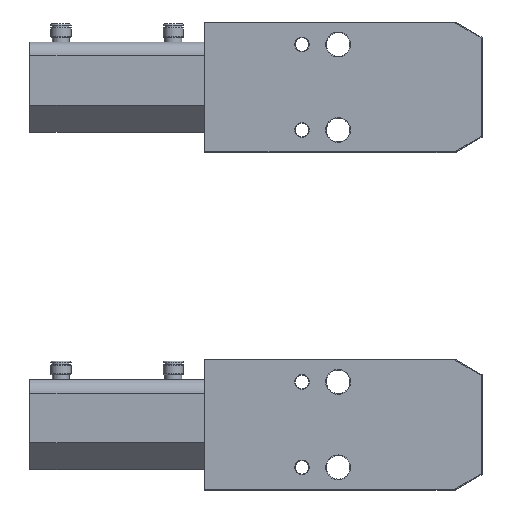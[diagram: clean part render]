
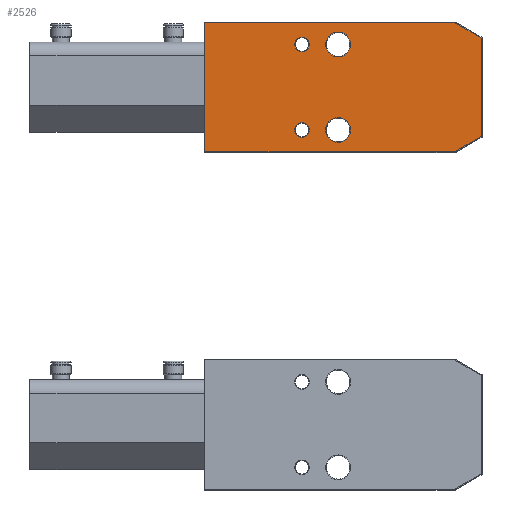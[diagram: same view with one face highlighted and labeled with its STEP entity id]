
A CAD part, top view. The second image highlights one B-rep face of the part: STEP entity #2526.
In plain terms, the highlighted planar face has unit normal (0, 0, 1).
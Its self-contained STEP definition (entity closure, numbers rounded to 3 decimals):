
#2526=ADVANCED_FACE('',(#5148,#5149,#5150,#5151,#5152),#5153,.T.);
#5148=FACE_OUTER_BOUND('',#8176,.T.);
#5149=FACE_BOUND('',#8177,.T.);
#5150=FACE_BOUND('',#8178,.T.);
#5151=FACE_BOUND('',#8179,.T.);
#5152=FACE_BOUND('',#8180,.T.);
#5153=PLANE('',#8181);
#8176=EDGE_LOOP('',(#15786,#15787,#15788,#15789,#15790,#15791));
#8177=EDGE_LOOP('',(#15792));
#8178=EDGE_LOOP('',(#15793));
#8179=EDGE_LOOP('',(#15794));
#8180=EDGE_LOOP('',(#15795));
#8181=AXIS2_PLACEMENT_3D('',#15796,#15797,#15798);
#15786=ORIENTED_EDGE('',*,*,#18616,.T.);
#15787=ORIENTED_EDGE('',*,*,#18474,.T.);
#15788=ORIENTED_EDGE('',*,*,#17780,.T.);
#15789=ORIENTED_EDGE('',*,*,#18741,.T.);
#15790=ORIENTED_EDGE('',*,*,#17761,.T.);
#15791=ORIENTED_EDGE('',*,*,#18073,.T.);
#15792=ORIENTED_EDGE('',*,*,#18054,.T.);
#15793=ORIENTED_EDGE('',*,*,#17785,.T.);
#15794=ORIENTED_EDGE('',*,*,#18614,.T.);
#15795=ORIENTED_EDGE('',*,*,#17770,.T.);
#15796=CARTESIAN_POINT('',(1509.5,139.0,47.));
#15797=DIRECTION('',(0.,0.,1.0));
#15798=DIRECTION('',(0.0,-1.0,0.));
#17761=EDGE_CURVE('',#21587,#21588,#21589,.T.);
#17770=EDGE_CURVE('',#21602,#21602,#21603,.T.);
#17780=EDGE_CURVE('',#21617,#21618,#21619,.T.);
#17785=EDGE_CURVE('',#21626,#21626,#21627,.T.);
#18054=EDGE_CURVE('',#22055,#22055,#22056,.T.);
#18073=EDGE_CURVE('',#21588,#22084,#22085,.T.);
#18474=EDGE_CURVE('',#22651,#21617,#22652,.T.);
#18614=EDGE_CURVE('',#22821,#22821,#22822,.T.);
#18616=EDGE_CURVE('',#22084,#22651,#22824,.T.);
#18741=EDGE_CURVE('',#21618,#21587,#22960,.T.);
#21587=VERTEX_POINT('',#27580);
#21588=VERTEX_POINT('',#27581);
#21589=LINE('',#27582,#27583);
#21602=VERTEX_POINT('',#27604);
#21603=CIRCLE('',#27605,5.5);
#21617=VERTEX_POINT('',#27629);
#21618=VERTEX_POINT('',#27630);
#21619=LINE('',#27631,#27632);
#21626=VERTEX_POINT('',#27642);
#21627=CIRCLE('',#27643,3.25);
#22055=VERTEX_POINT('',#28330);
#22056=CIRCLE('',#28331,3.25);
#22084=VERTEX_POINT('',#28376);
#22085=LINE('',#28377,#28378);
#22651=VERTEX_POINT('',#29373);
#22652=LINE('',#29374,#29375);
#22821=VERTEX_POINT('',#29667);
#22822=CIRCLE('',#29668,5.5);
#22824=LINE('',#29670,#29671);
#22960=LINE('',#29870,#29871);
#27580=CARTESIAN_POINT('',(111.25,207.75,47.));
#27581=CARTESIAN_POINT('',(0.25,207.75,47.));
#27582=CARTESIAN_POINT('',(-12.25,207.75,47.));
#27583=VECTOR('',#31105,1.0);
#27604=CARTESIAN_POINT('',(54.,198.0,47.));
#27605=AXIS2_PLACEMENT_3D('',#31110,#31111,#31112);
#27629=CARTESIAN_POINT('',(123.25,157.178,47.));
#27630=CARTESIAN_POINT('',(123.25,200.822,47.));
#27631=CARTESIAN_POINT('',(123.25,197.856,47.));
#27632=VECTOR('',#31115,1.0);
#27642=CARTESIAN_POINT('',(40.25,198.0,47.));
#27643=AXIS2_PLACEMENT_3D('',#31119,#31120,#31121);
#28330=CARTESIAN_POINT('',(40.25,160.0,47.));
#28331=AXIS2_PLACEMENT_3D('',#31293,#31294,#31295);
#28376=CARTESIAN_POINT('',(0.25,150.25,47.));
#28377=CARTESIAN_POINT('',(0.25,150.25,47.));
#28378=VECTOR('',#31306,1.0);
#29373=CARTESIAN_POINT('',(111.25,150.25,47.));
#29374=CARTESIAN_POINT('',(1155.066,752.898,47.));
#29375=VECTOR('',#31481,1.0);
#29667=CARTESIAN_POINT('',(54.,160.0,47.));
#29668=AXIS2_PLACEMENT_3D('',#31567,#31568,#31569);
#29670=CARTESIAN_POINT('',(106.113,150.25,47.));
#29671=VECTOR('',#31570,1.0);
#29870=CARTESIAN_POINT('',(1189.707,-414.898,47.));
#29871=VECTOR('',#31615,1.0);
#31105=DIRECTION('',(-1.0,0.0,0.));
#31110=CARTESIAN_POINT('',(59.5,198.0,47.));
#31111=DIRECTION('',(0.,0.,-1.0));
#31112=DIRECTION('',(-1.0,0.0,0.));
#31115=DIRECTION('',(0.0,1.0,0.));
#31119=CARTESIAN_POINT('',(43.5,198.0,47.));
#31120=DIRECTION('',(0.,0.,-1.0));
#31121=DIRECTION('',(-1.0,0.0,0.));
#31293=CARTESIAN_POINT('',(43.5,160.0,47.));
#31294=DIRECTION('',(0.,0.,-1.0));
#31295=DIRECTION('',(-1.0,0.0,0.));
#31306=DIRECTION('',(0.0,-1.0,0.));
#31481=DIRECTION('',(0.866,0.5,0.));
#31567=CARTESIAN_POINT('',(59.5,160.0,47.));
#31568=DIRECTION('',(0.,0.,-1.0));
#31569=DIRECTION('',(-1.0,0.0,0.));
#31570=DIRECTION('',(1.0,0.0,0.));
#31615=DIRECTION('',(-0.866,0.5,0.));
